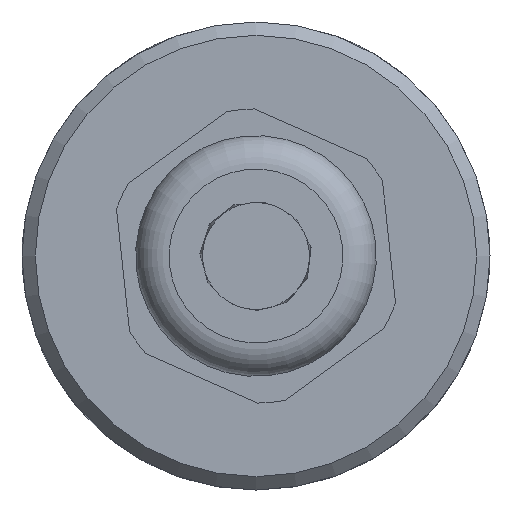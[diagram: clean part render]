
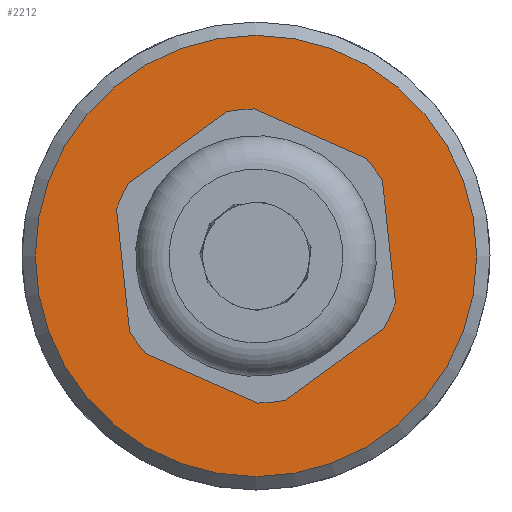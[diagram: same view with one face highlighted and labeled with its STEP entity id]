
A CAD part, left-side view. The second image highlights one B-rep face of the part: STEP entity #2212.
In plain terms, the highlighted planar face has unit normal (-1, 0, 0).
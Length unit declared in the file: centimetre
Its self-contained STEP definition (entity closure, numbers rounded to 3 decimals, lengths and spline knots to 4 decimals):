
#717=CIRCLE('',#2332,0.7188);
#718=CIRCLE('',#2334,1.65);
#792=VERTEX_POINT('',#3045);
#793=VERTEX_POINT('',#3048);
#1207=EDGE_CURVE('',#792,#792,#717,.T.);
#1208=EDGE_CURVE('',#793,#793,#718,.T.);
#1470=ORIENTED_EDGE('',*,*,#1207,.T.);
#1471=ORIENTED_EDGE('',*,*,#1208,.F.);
#1951=EDGE_LOOP('',(#1470));
#1952=EDGE_LOOP('',(#1471));
#2085=FACE_BOUND('',#1951,.T.);
#2086=FACE_BOUND('',#1952,.T.);
#2212=ADVANCED_FACE('',(#2085,#2086),#5608,.T.);
#2332=AXIS2_PLACEMENT_3D('',#3044,#2511,#2512);
#2334=AXIS2_PLACEMENT_3D('',#3047,#2515,#2516);
#2335=AXIS2_PLACEMENT_3D('',#3049,#2517,$);
#2511=DIRECTION('',(1.,0.,0.));
#2512=DIRECTION('',(0.,0.,0.719));
#2515=DIRECTION('',(1.,0.,0.));
#2516=DIRECTION('',(0.,0.,1.65));
#2517=DIRECTION('',(-1.,0.,0.));
#3044=CARTESIAN_POINT('',(0.,0.,0.));
#3045=CARTESIAN_POINT('',(0.,0.,0.7188));
#3047=CARTESIAN_POINT('',(0.,0.,0.));
#3048=CARTESIAN_POINT('',(0.,0.,-1.65));
#3049=CARTESIAN_POINT('',(0.,0.,-0.875));
#5608=PLANE('',#2335);
